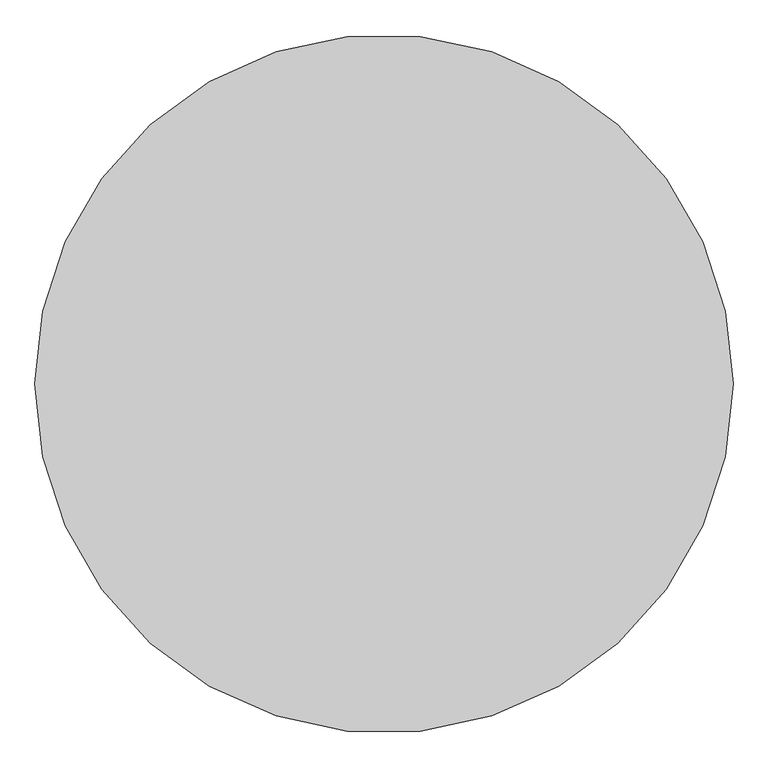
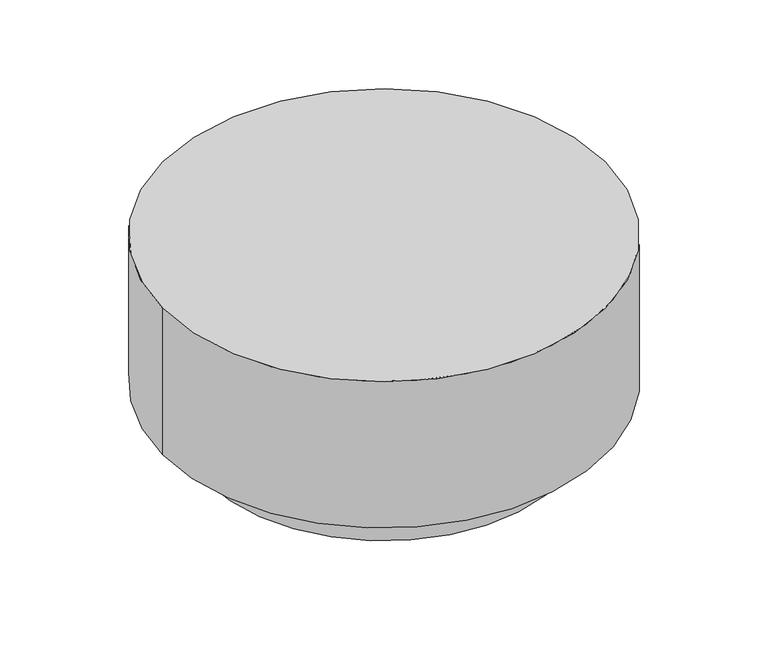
"""IFC4 building model written with IfcOpenShell, lengths in millimetres: proxy geometry, ARQ_BANCA_REDONDA : ARQ_BANCA_REDONDA."""

from ifc_helpers import new_model, si_unit, point, frame, origin, origin_with_axes, origin_2d, place, context, project, spatial, circle_curve, trimmed, segment, composite_curve, outline, extrude, source, transform, mapped, element, save


def generic_models_06e8632b(model_context):
    return source(origin(), model_context, "Body", "SweptSolid", [
        extrude(outline(composite_curve([segment(trimmed(circle_curve(origin_2d(), 500.0), [point((-500.0, 0.0))], [point((500.0, 0.0))], False, "CARTESIAN"), True, "CONTINUOUS"), segment(trimmed(circle_curve(origin_2d(), 500.0), [point((500.0, 0.0))], [point((-500.0, 0.0))], False, "CARTESIAN"), True, "CONTINUOUS")], self_intersect=False)), frame((0.0, 0.0, 100.0), z_axis=(0.0, 0.0, 1.0), x_axis=(1.0, 0.0, 0.0)), (0.0, 0.0, 1.0), 350.0),
        extrude(outline(composite_curve([segment(trimmed(circle_curve(origin_2d(), 400.0), [point((-400.0, 0.0))], [point((400.0, 0.0))], False, "CARTESIAN"), True, "CONTINUOUS"), segment(trimmed(circle_curve(origin_2d(), 400.0), [point((400.0, 0.0))], [point((-400.0, 0.0))], False, "CARTESIAN"), True, "CONTINUOUS")], self_intersect=False)), origin_with_axes(), (0.0, 0.0, 1.0), 100.0),
    ])


if __name__ == "__main__":
    model = new_model("IFC4")
    model_context = context("Model", 3, world=origin())
    ifc_project = project(units=[si_unit("LENGTHUNIT", "METRE", prefix="MILLI")], contexts=[model_context])
    site = spatial("IfcSite", under=ifc_project)
    building = spatial("IfcBuilding", under=site)
    placement = place(None, origin())
    generic_models_shape = generic_models_06e8632b(model_context)
    element("IfcBuildingElementProxy", 1, Name="ARQ_BANCA_REDONDA : ARQ_BANCA_REDONDA", ObjectType="ARQ_BANCA_REDONDA : ARQ_BANCA_REDONDA", at=placement, inside=building, context=model_context, shape_type="MappedRepresentation", body=[
        mapped(generic_models_shape, transform((0.0, 0.0, 0.0), x_axis=(1.0, 0.0, 0.0), y_axis=(0.0, 1.0, 0.0), z_axis=(0.0, 0.0, 1.0))),
    ])
    save(model, "model.ifc")
